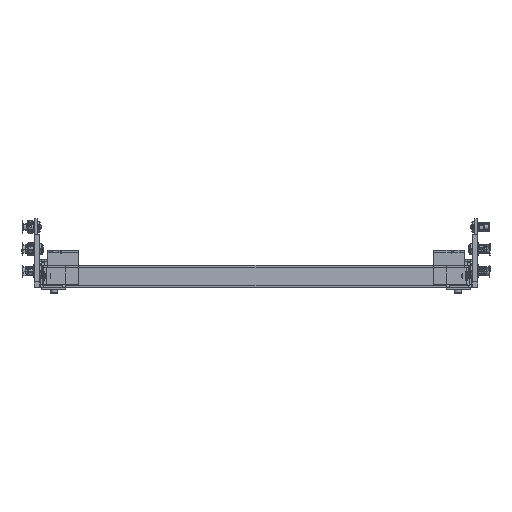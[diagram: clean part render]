
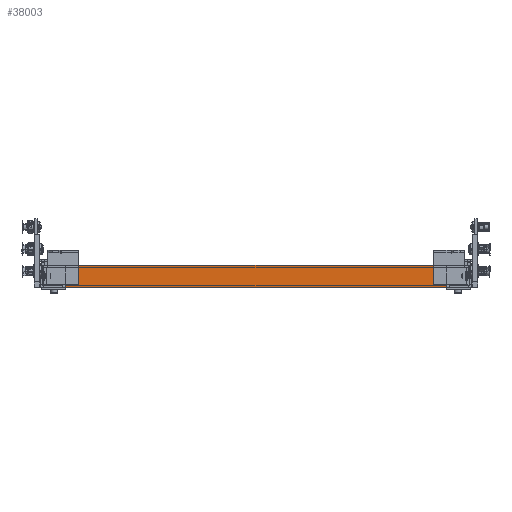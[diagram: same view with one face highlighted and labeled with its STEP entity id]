
A CAD part, front view. The second image highlights one B-rep face of the part: STEP entity #38003.
In plain terms, the highlighted planar face has unit normal (0, -1, 0) as drawn and (-1, 0, 0) by its records, which use the part's own axes.
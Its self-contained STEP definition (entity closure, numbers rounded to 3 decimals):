
#1092 = DIRECTION ( 'NONE',  ( 0., 0., 1. ) ) ;
#3100 = ORIENTED_EDGE ( 'NONE', *, *, #69334, .T. ) ;
#12829 = CARTESIAN_POINT ( 'NONE',  ( -741.51, -214.5, 0. ) ) ;
#16837 = LINE ( 'NONE', #64525, #52705 ) ;
#19953 = DIRECTION ( 'NONE',  ( 0., 0., 1. ) ) ;
#23267 = DIRECTION ( 'NONE',  ( 1., 0., 0. ) ) ;
#23551 = VECTOR ( 'NONE', #198712, 1000. ) ;
#31913 = EDGE_CURVE ( 'NONE', #58248, #140862, #207497, .T. ) ;
#33080 = DIRECTION ( 'NONE',  ( 0., -1., 0. ) ) ;
#33432 = DIRECTION ( 'NONE',  ( 0., 0., -1. ) ) ;
#38003 = ADVANCED_FACE ( 'NONE', ( #204361 ), #105687, .F. ) ;
#39904 = VERTEX_POINT ( 'NONE', #45302 ) ;
#40660 = LINE ( 'NONE', #42779, #154796 ) ;
#42555 = VERTEX_POINT ( 'NONE', #152255 ) ;
#42779 = CARTESIAN_POINT ( 'NONE',  ( -741.51, 214.5, 2.5 ) ) ;
#44903 = ORIENTED_EDGE ( 'NONE', *, *, #84075, .T. ) ;
#45302 = CARTESIAN_POINT ( 'NONE',  ( -741.51, -214.5, 21.9 ) ) ;
#45874 = EDGE_CURVE ( 'NONE', #124426, #39904, #165963, .T. ) ;
#48472 = ORIENTED_EDGE ( 'NONE', *, *, #31913, .F. ) ;
#49893 = CARTESIAN_POINT ( 'NONE',  ( -741.51, -214.5, 2.5 ) ) ;
#52705 = VECTOR ( 'NONE', #33080, 1000. ) ;
#58248 = VERTEX_POINT ( 'NONE', #201849 ) ;
#60546 = CARTESIAN_POINT ( 'NONE',  ( -741.51, 214.5, 3.1 ) ) ;
#60679 = CARTESIAN_POINT ( 'NONE',  ( -741.51, -214.5, 3.1 ) ) ;
#64525 = CARTESIAN_POINT ( 'NONE',  ( -741.51, -240.5, 0. ) ) ;
#69334 = EDGE_CURVE ( 'NONE', #77169, #149210, #16837, .T. ) ;
#72047 = DIRECTION ( 'NONE',  ( 0., 0., -1. ) ) ;
#77169 = VERTEX_POINT ( 'NONE', #142686 ) ;
#78485 = DIRECTION ( 'NONE',  ( 0., 0., -1. ) ) ;
#82656 = CARTESIAN_POINT ( 'NONE',  ( -741.51, 214.5, 2.5 ) ) ;
#84075 = EDGE_CURVE ( 'NONE', #42555, #115649, #40660, .T. ) ;
#89429 = VECTOR ( 'NONE', #143468, 1000. ) ;
#95723 = LINE ( 'NONE', #82656, #23551 ) ;
#98453 = EDGE_CURVE ( 'NONE', #115649, #77169, #131006, .T. ) ;
#99125 = EDGE_LOOP ( 'NONE', ( #137253, #182889, #48472, #174811, #44903, #165058, #3100, #143325 ) ) ;
#99922 = EDGE_CURVE ( 'NONE', #39904, #140862, #181614, .T. ) ;
#101725 = LINE ( 'NONE', #167888, #194125 ) ;
#105687 = PLANE ( 'NONE',  #122606 ) ;
#115649 = VERTEX_POINT ( 'NONE', #206279 ) ;
#120166 = VECTOR ( 'NONE', #1092, 1000. ) ;
#122606 = AXIS2_PLACEMENT_3D ( 'NONE', #156640, #23267, #72047 ) ;
#124426 = VERTEX_POINT ( 'NONE', #60679 ) ;
#126717 = DIRECTION ( 'NONE',  ( 0., 0., -1. ) ) ;
#129850 = VECTOR ( 'NONE', #126717, 1000. ) ;
#130125 = VECTOR ( 'NONE', #19953, 1000. ) ;
#131006 = LINE ( 'NONE', #60546, #129850 ) ;
#137253 = ORIENTED_EDGE ( 'NONE', *, *, #45874, .T. ) ;
#140862 = VERTEX_POINT ( 'NONE', #146013 ) ;
#142051 = EDGE_CURVE ( 'NONE', #124426, #149210, #101725, .T. ) ;
#142686 = CARTESIAN_POINT ( 'NONE',  ( -741.51, 214.5, 0. ) ) ;
#143325 = ORIENTED_EDGE ( 'NONE', *, *, #142051, .F. ) ;
#143468 = DIRECTION ( 'NONE',  ( 0., -1., 0. ) ) ;
#146013 = CARTESIAN_POINT ( 'NONE',  ( -741.51, -214.5, 25. ) ) ;
#149210 = VERTEX_POINT ( 'NONE', #12829 ) ;
#152255 = CARTESIAN_POINT ( 'NONE',  ( -741.51, 214.5, 21.9 ) ) ;
#154796 = VECTOR ( 'NONE', #78485, 1000. ) ;
#155682 = EDGE_CURVE ( 'NONE', #42555, #58248, #95723, .T. ) ;
#156640 = CARTESIAN_POINT ( 'NONE',  ( -741.51, 214.5, 2.5 ) ) ;
#160815 = CARTESIAN_POINT ( 'NONE',  ( -741.51, 214.5, 25. ) ) ;
#165058 = ORIENTED_EDGE ( 'NONE', *, *, #98453, .T. ) ;
#165963 = LINE ( 'NONE', #49893, #120166 ) ;
#167888 = CARTESIAN_POINT ( 'NONE',  ( -741.51, -214.5, 2.5 ) ) ;
#174811 = ORIENTED_EDGE ( 'NONE', *, *, #155682, .F. ) ;
#181614 = LINE ( 'NONE', #201056, #130125 ) ;
#182889 = ORIENTED_EDGE ( 'NONE', *, *, #99922, .T. ) ;
#194125 = VECTOR ( 'NONE', #33432, 1000. ) ;
#198712 = DIRECTION ( 'NONE',  ( 0., 0., 1. ) ) ;
#201056 = CARTESIAN_POINT ( 'NONE',  ( -741.51, -214.5, 21.9 ) ) ;
#201849 = CARTESIAN_POINT ( 'NONE',  ( -741.51, 214.5, 25. ) ) ;
#204361 = FACE_OUTER_BOUND ( 'NONE', #99125, .T. ) ;
#206279 = CARTESIAN_POINT ( 'NONE',  ( -741.51, 214.5, 3.1 ) ) ;
#207497 = LINE ( 'NONE', #160815, #89429 ) ;
